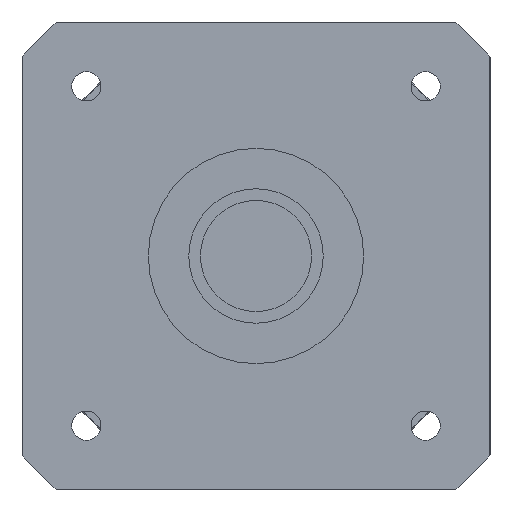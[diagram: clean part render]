
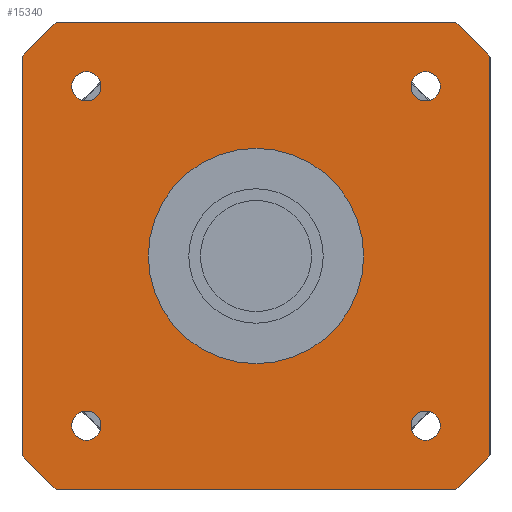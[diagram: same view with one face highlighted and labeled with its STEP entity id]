
A CAD part, left-side view. The second image highlights one B-rep face of the part: STEP entity #15340.
In plain terms, the highlighted planar face has unit normal (-1, 0, 0) as drawn and (0, 0, -1) by its records, which use the part's own axes.
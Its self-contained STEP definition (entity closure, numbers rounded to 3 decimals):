
#8850=CARTESIAN_POINT('',(-34.004,-40.,-44.2));
#8860=VERTEX_POINT('',#8850);
#9010=CARTESIAN_POINT('',(34.004,-40.,-44.2));
#9020=VERTEX_POINT('',#9010);
#9050=CARTESIAN_POINT('',(-40.,-40.,-44.2));
#9060=DIRECTION('',(1.,0.,0.));
#9070=VECTOR('',#9060,1000.);
#9080=LINE('',#9050,#9070);
#9090=EDGE_CURVE('',#8860,#9020,#9080,.T.);
#9230=CARTESIAN_POINT('',(28.998,-26.498,-44.2));
#9240=VERTEX_POINT('',#9230);
#9510=CARTESIAN_POINT('',(28.998,-31.498,-44.2));
#9520=VERTEX_POINT('',#9510);
#9550=CARTESIAN_POINT('',(28.998,-28.998,-44.2));
#9560=DIRECTION('',(0.,0.,-1.));
#9570=DIRECTION('',(1.,0.,0.));
#9580=AXIS2_PLACEMENT_3D('',#9550,#9560,#9570);
#9590=CIRCLE('',#9580,2.5);
#9600=CARTESIAN_POINT('',(31.498,-28.998,-44.2));
#9610=VERTEX_POINT('',#9600);
#9620=EDGE_CURVE('',#9610,#9520,#9590,.T.);
#9640=EDGE_CURVE('',#9240,#9610,#9590,.T.);
#12850=CARTESIAN_POINT('',(40.,34.004,-44.2));
#12860=VERTEX_POINT('',#12850);
#12940=CARTESIAN_POINT('',(34.004,40.,-44.2));
#12950=VERTEX_POINT('',#12940);
#12980=CARTESIAN_POINT('',(0.,0.,
-44.2));
#12990=DIRECTION('',(0.,0.,1.));
#13000=DIRECTION('',(1.,0.,0.));
#13010=AXIS2_PLACEMENT_3D('',#12980,#12990,#13000);
#13020=CIRCLE('',#13010,52.5);
#13030=EDGE_CURVE('',#12860,#12950,#13020,.T.);
#13170=CARTESIAN_POINT('',(40.,-34.004,-44.2));
#13180=VERTEX_POINT('',#13170);
#13230=CARTESIAN_POINT('',(40.,-40.,-44.2));
#13240=DIRECTION('',(0.,1.,0.));
#13250=VECTOR('',#13240,1000.);
#13260=LINE('',#13230,#13250);
#13270=EDGE_CURVE('',#13180,#12860,#13260,.T.);
#13380=CARTESIAN_POINT('',(0.,0.,
-44.2));
#13390=DIRECTION('',(0.,0.,1.));
#13400=DIRECTION('',(1.,0.,0.));
#13410=AXIS2_PLACEMENT_3D('',#13380,#13390,#13400);
#13420=CIRCLE('',#13410,52.5);
#13430=EDGE_CURVE('',#9020,#13180,#13420,.T.);
#13610=CARTESIAN_POINT('',(-34.004,40.,-44.2));
#13620=VERTEX_POINT('',#13610);
#13650=CARTESIAN_POINT('',(40.,40.,-44.2));
#13660=DIRECTION('',(-1.,0.,0.));
#13670=VECTOR('',#13660,1000.);
#13680=LINE('',#13650,#13670);
#13690=EDGE_CURVE('',#12950,#13620,#13680,.T.);
#13850=CARTESIAN_POINT('',(-40.,34.004,-44.2));
#13860=VERTEX_POINT('',#13850);
#13890=CARTESIAN_POINT('',(0.,0.,
-44.2));
#13900=DIRECTION('',(0.,0.,1.));
#13910=DIRECTION('',(1.,0.,0.));
#13920=AXIS2_PLACEMENT_3D('',#13890,#13900,#13910);
#13930=CIRCLE('',#13920,52.5);
#13940=EDGE_CURVE('',#13620,#13860,#13930,.T.);
#14100=CARTESIAN_POINT('',(-40.,-34.004,-44.2));
#14110=VERTEX_POINT('',#14100);
#14140=CARTESIAN_POINT('',(-40.,40.,-44.2));
#14150=DIRECTION('',(0.,-1.,0.));
#14160=VECTOR('',#14150,1000.);
#14170=LINE('',#14140,#14160);
#14180=EDGE_CURVE('',#13860,#14110,#14170,.T.);
#14310=CARTESIAN_POINT('',(0.,0.,
-44.2));
#14320=DIRECTION('',(0.,0.,1.));
#14330=DIRECTION('',(1.,0.,0.));
#14340=AXIS2_PLACEMENT_3D('',#14310,#14320,#14330);
#14350=CIRCLE('',#14340,52.5);
#14360=EDGE_CURVE('',#14110,#8860,#14350,.T.);
#14410=CARTESIAN_POINT('',(40.,40.,-44.2));
#14420=DIRECTION('',(0.,0.,1.));
#14430=DIRECTION('',(0.,1.,0.));
#14440=AXIS2_PLACEMENT_3D('',#14410,#14420,#14430);
#14450=PLANE('',#14440);
#14460=CARTESIAN_POINT('',(28.998,28.998,-44.2));
#14470=DIRECTION('',(0.,0.,-1.));
#14480=DIRECTION('',(1.,0.,0.));
#14490=AXIS2_PLACEMENT_3D('',#14460,#14470,#14480);
#14500=CIRCLE('',#14490,2.5);
#14510=CARTESIAN_POINT('',(31.498,28.998,-44.2));
#14520=VERTEX_POINT('',#14510);
#14530=CARTESIAN_POINT('',(28.998,26.498,-44.2));
#14540=VERTEX_POINT('',#14530);
#14550=EDGE_CURVE('',#14520,#14540,#14500,.T.);
#14560=ORIENTED_EDGE('',*,*,#14550,.F.);
#14570=CARTESIAN_POINT('',(28.998,31.498,-44.2));
#14580=VERTEX_POINT('',#14570);
#14590=EDGE_CURVE('',#14540,#14580,#14500,.T.);
#14600=ORIENTED_EDGE('',*,*,#14590,.F.);
#14610=EDGE_CURVE('',#14580,#14520,#14500,.T.);
#14620=ORIENTED_EDGE('',*,*,#14610,.F.);
#14630=EDGE_LOOP('',(#14620,#14600,#14560));
#14640=FACE_BOUND('',#14630,.T.);
#14650=CARTESIAN_POINT('',(-28.998,28.998,-44.2));
#14660=DIRECTION('',(0.,0.,-1.));
#14670=DIRECTION('',(1.,0.,0.));
#14680=AXIS2_PLACEMENT_3D('',#14650,#14660,#14670);
#14690=CIRCLE('',#14680,2.5);
#14700=CARTESIAN_POINT('',(-26.498,28.998,-44.2));
#14710=VERTEX_POINT('',#14700);
#14720=CARTESIAN_POINT('',(-28.998,26.498,-44.2));
#14730=VERTEX_POINT('',#14720);
#14740=EDGE_CURVE('',#14710,#14730,#14690,.T.);
#14750=ORIENTED_EDGE('',*,*,#14740,.F.);
#14760=CARTESIAN_POINT('',(-28.998,31.498,-44.2));
#14770=VERTEX_POINT('',#14760);
#14780=EDGE_CURVE('',#14730,#14770,#14690,.T.);
#14790=ORIENTED_EDGE('',*,*,#14780,.F.);
#14800=EDGE_CURVE('',#14770,#14710,#14690,.T.);
#14810=ORIENTED_EDGE('',*,*,#14800,.F.);
#14820=EDGE_LOOP('',(#14810,#14790,#14750));
#14830=FACE_BOUND('',#14820,.T.);
#14840=CARTESIAN_POINT('',(0.,0.,
-44.2));
#14850=DIRECTION('',(0.,0.,1.));
#14860=DIRECTION('',(0.,-1.,0.));
#14870=AXIS2_PLACEMENT_3D('',#14840,#14850,#14860);
#14880=CIRCLE('',#14870,18.4);
#14890=CARTESIAN_POINT('',(0.,-18.4,-44.2));
#14900=VERTEX_POINT('',#14890);
#14910=CARTESIAN_POINT('',(0.,18.4,-44.2));
#14920=VERTEX_POINT('',#14910);
#14930=EDGE_CURVE('',#14900,#14920,#14880,.T.);
#14940=ORIENTED_EDGE('',*,*,#14930,.T.);
#14950=EDGE_CURVE('',#14920,#14900,#14880,.T.);
#14960=ORIENTED_EDGE('',*,*,#14950,.T.);
#14970=EDGE_LOOP('',(#14960,#14940));
#14980=FACE_BOUND('',#14970,.T.);
#14990=CARTESIAN_POINT('',(-28.998,-28.998,-44.2));
#15000=DIRECTION('',(0.,0.,-1.));
#15010=DIRECTION('',(1.,0.,0.));
#15020=AXIS2_PLACEMENT_3D('',#14990,#15000,#15010);
#15030=CIRCLE('',#15020,2.5);
#15040=CARTESIAN_POINT('',(-26.498,-28.998,-44.2));
#15050=VERTEX_POINT('',#15040);
#15060=CARTESIAN_POINT('',(-28.998,-31.498,-44.2));
#15070=VERTEX_POINT('',#15060);
#15080=EDGE_CURVE('',#15050,#15070,#15030,.T.);
#15090=ORIENTED_EDGE('',*,*,#15080,.F.);
#15100=CARTESIAN_POINT('',(-28.998,-26.498,-44.2));
#15110=VERTEX_POINT('',#15100);
#15120=EDGE_CURVE('',#15070,#15110,#15030,.T.);
#15130=ORIENTED_EDGE('',*,*,#15120,.F.);
#15140=EDGE_CURVE('',#15110,#15050,#15030,.T.);
#15150=ORIENTED_EDGE('',*,*,#15140,.F.);
#15160=EDGE_LOOP('',(#15150,#15130,#15090));
#15170=FACE_BOUND('',#15160,.T.);
#15180=ORIENTED_EDGE('',*,*,#9620,.F.);
#15190=EDGE_CURVE('',#9520,#9240,#9590,.T.);
#15200=ORIENTED_EDGE('',*,*,#15190,.F.);
#15210=ORIENTED_EDGE('',*,*,#9640,.F.);
#15220=EDGE_LOOP('',(#15210,#15200,#15180));
#15230=FACE_BOUND('',#15220,.T.);
#15240=ORIENTED_EDGE('',*,*,#13940,.F.);
#15250=ORIENTED_EDGE('',*,*,#14180,.F.);
#15260=ORIENTED_EDGE('',*,*,#14360,.F.);
#15270=ORIENTED_EDGE('',*,*,#9090,.F.);
#15280=ORIENTED_EDGE('',*,*,#13430,.F.);
#15290=ORIENTED_EDGE('',*,*,#13270,.F.);
#15300=ORIENTED_EDGE('',*,*,#13030,.F.);
#15310=ORIENTED_EDGE('',*,*,#13690,.F.);
#15320=EDGE_LOOP('',(#15310,#15300,#15290,#15280,#15270,#15260,#15250,
#15240));
#15330=FACE_OUTER_BOUND('',#15320,.T.);
#15340=ADVANCED_FACE('',(#14640,#14830,#14980,#15170,#15230,#15330),
#14450,.F.);
